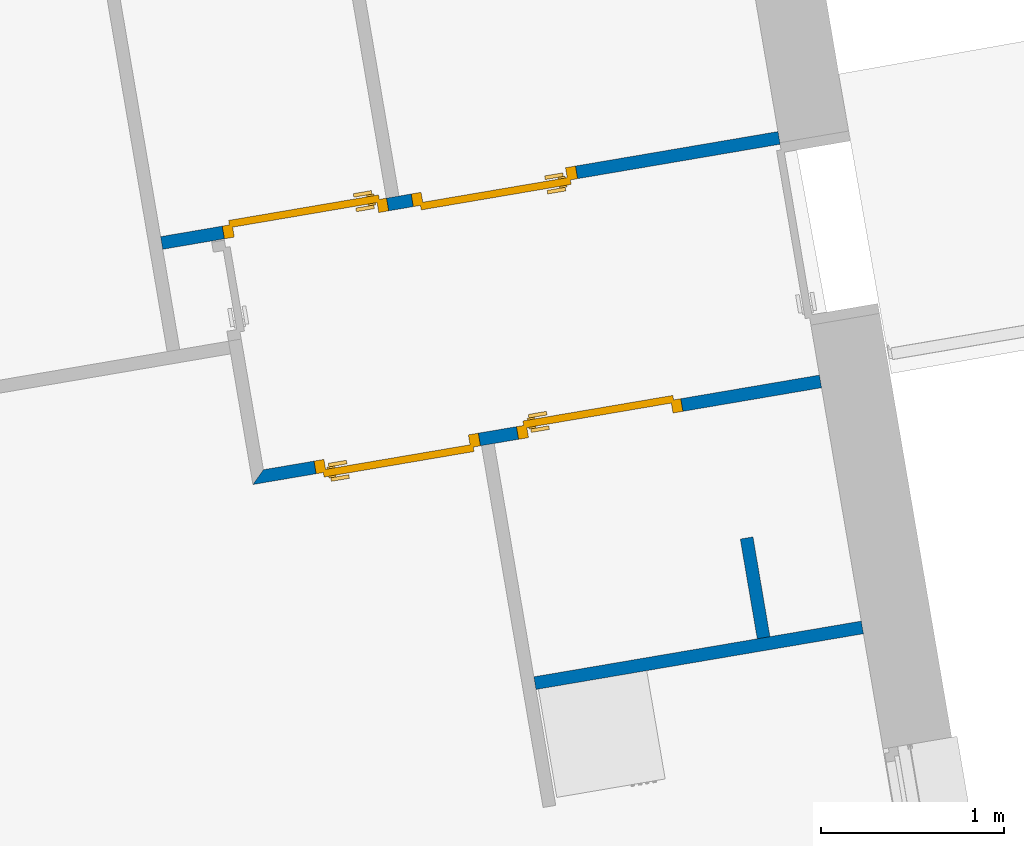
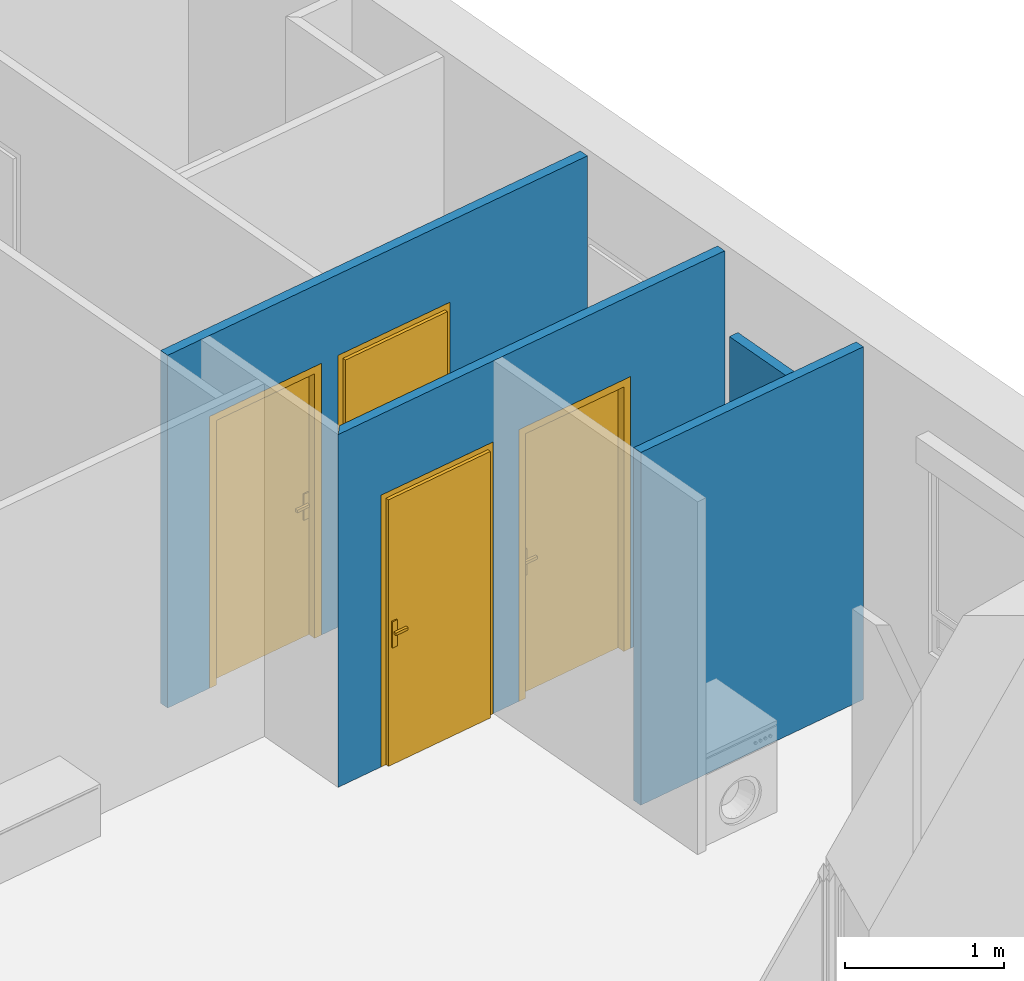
# One storey, part 75 of 121: 4 doors, 4 walls, 4 openings.
"""IFC2X3 building model written with IfcOpenShell, lengths in metres."""

from ifc_helpers import new_model, entity, si_unit, converted_unit, derived_unit, money_unit, direction, frame, origin_with_axes, origin_2d_with_axis, place, context, subcontext, project, spatial, polyline, rectangle, outline, extrude, faceted_brep, source, transform, mapped, material, layer, layer_set, layer_usage, type_object, element, fill, save


model = new_model("IFC2X3")

# Units and contexts
model_context = context("Model", 3, precision=1e-05, world=origin_with_axes(), true_north=direction((0.0, 1.0)))
body_context = subcontext(model_context, "Body", "Model", "MODEL_VIEW")
ifc_project = project(units=[si_unit("LENGTHUNIT", "METRE"), si_unit("AREAUNIT", "SQUARE_METRE"), si_unit("VOLUMEUNIT", "CUBIC_METRE"), converted_unit("PLANEANGLEUNIT", "DEGREE", entity("IfcPlaneAngleMeasure", 0.0174532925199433), si_unit("PLANEANGLEUNIT", "RADIAN"), dimensions=[0, 0, 0, 0, 0, 0, 0]), money_unit("CHF"), converted_unit("TIMEUNIT", "Year", entity("IfcTimeMeasure", 31557600.0), si_unit("TIMEUNIT", "SECOND"), dimensions=[0, 0, 1, 0, 0, 0, 0]), si_unit("MASSUNIT", "GRAM", prefix="KILO"), si_unit("THERMODYNAMICTEMPERATUREUNIT", "DEGREE_CELSIUS"), si_unit("LUMINOUSINTENSITYUNIT", "LUMEN"), si_unit("ENERGYUNIT", "JOULE", prefix="MEGA"), derived_unit("THERMALCONDUCTANCEUNIT", [(si_unit("POWERUNIT", "WATT"), 1), (si_unit("LENGTHUNIT", "METRE"), -1), (si_unit("THERMODYNAMICTEMPERATUREUNIT", "KELVIN"), -1)]), derived_unit("SPECIFICHEATCAPACITYUNIT", [(si_unit("ENERGYUNIT", "JOULE"), 1), (si_unit("MASSUNIT", "GRAM", prefix="KILO"), -1), (si_unit("THERMODYNAMICTEMPERATUREUNIT", "KELVIN"), -1)]), derived_unit("MASSDENSITYUNIT", [(si_unit("MASSUNIT", "GRAM", prefix="KILO"), 1), (si_unit("VOLUMEUNIT", "CUBIC_METRE"), -1)])], contexts=[model_context])

# Site, building, storey
site_placement = place(None, origin_with_axes())
site = spatial("IfcSite", under=ifc_project, at=site_placement, Name="Site", CompositionType="ELEMENT")
building_placement = place(site_placement, origin_with_axes())
building = spatial("IfcBuilding", under=site, at=building_placement, Name="Bâtiment", CompositionType="ELEMENT")
storey_placement = place(building_placement, frame((0.0, 0.0, 2.75), z_axis=(0.0, 0.0, 1.0), x_axis=(1.0, 0.0, 0.0)))
storey = spatial("IfcBuildingStorey", under=building, at=storey_placement, Name="Etage 1", CompositionType="ELEMENT", Elevation=2.75)

# Wall, openings, doors
ifc_material = material(Name="Hachure solide 268963992")
ifc_layer = layer(ifc_material, 0.07, ventilated="UNKNOWN")
ifc_layer_set = layer_set([ifc_layer], Name="Cloison 70 0826278243")
ifc_layer_usage_1 = layer_usage(ifc_layer_set, "AXIS2", "NEGATIVE", 0.0)
wall_type = type_object("IfcWallType", Name="Cloison 70 0826278243 70", PredefinedType="NOTDEFINED")
wall_1_placement = place(storey_placement, frame((9588.463847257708, -1028.046569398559, 57.7), z_axis=(0.0, 0.0, 1.0), x_axis=(-0.9858290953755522, -0.1677527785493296, 0.0)))
wall_1 = element("IfcWallStandardCase", 1, at=wall_1_placement, inside=storey, type_object=wall_type, material=ifc_layer_usage_1, Name="Mur-149", context=body_context, shape_type="SweptSolid", body=[
    extrude(outline(polyline([(0.3799999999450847, -0.0700000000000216), (3.798769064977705, -0.07000000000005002), (3.798769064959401, 0.0), (0.3799999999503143, 0.0), (0.3799999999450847, -0.0700000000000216)])), origin_with_axes(), (0.0, 0.0, 1.0), 2.7),
])
opening_1_placement = place(wall_1_placement, frame((3.002404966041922, 0.0, 0.0), z_axis=(0.0, 0.0, 1.0), x_axis=(1.0, 0.0, 0.0)))
opening_1 = element("IfcOpeningElement", 2, at=opening_1_placement, cuts=wall_1, Name="Por-299", context=body_context, shape_type="SweptSolid", body=[
    extrude(rectangle(XDim=0.9099999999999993, YDim=2.079999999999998, at=origin_2d_with_axis()), frame((0.0, 0.06999999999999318, 1.039999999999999), z_axis=(0.0, 1.0, 0.0), x_axis=(1.0, 0.0, 0.0)), (0.0, 0.0, -1.0), 0.14),
])
opening_2_placement = place(wall_1_placement, frame((1.956257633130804, 0.0, 0.0), z_axis=(0.0, 0.0, 1.0), x_axis=(1.0, 0.0, 0.0)))
opening_2 = element("IfcOpeningElement", 3, at=opening_2_placement, cuts=wall_1, Name="Por-299", context=body_context, shape_type="SweptSolid", body=[
    extrude(rectangle(XDim=0.9099999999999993, YDim=2.079999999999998, at=origin_2d_with_axis()), frame((0.0, -0.06999999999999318, 1.039999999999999), z_axis=(0.0, 1.0, 0.0), x_axis=(1.0, 0.0, 0.0)), (0.0, 0.0, 1.0), 0.14),
])
door_style = type_object("IfcDoorStyle", Name="Porte_1v", ConstructionType="NOTDEFINED", OperationType="NOTDEFINED", ParameterTakesPrecedence=False, Sizeable=False)
shared_shape_1 = source(origin_with_axes(), body_context, "Body", "Brep", [
    faceted_brep([(0.455, 0.0, 0.0), (0.415, 0.0, 0.0), (0.415, 0.0, 2.04), (-0.415, 0.0, 2.04), (-0.415, 0.0, 0.0), (-0.455, 0.0, 0.0), (-0.455, 0.0, 2.08), (0.455, 0.0, 2.08), (0.455, -0.07, 0.0), (0.4, -0.07, 0.0), (0.4, -0.015, 0.0), (0.415, -0.015, 0.0), (0.415, -0.015, 2.04), (-0.415, -0.015, 2.04), (-0.415, -0.015, 0.0), (-0.4, -0.015, 0.0), (-0.4, -0.07, 0.0), (-0.455, -0.07, 0.0), (-0.455, -0.07, 2.08), (0.455, -0.07, 2.08), (-0.4, -0.07, 2.025), (0.4, -0.07, 2.025), (0.4, -0.015, 2.025), (-0.4, -0.015, 2.025)], [[[0, 1, 2, 3, 4, 5, 6, 7]], [[0, 8, 9, 10, 11, 1]], [[1, 11, 12, 2]], [[2, 12, 13, 3]], [[3, 13, 14, 4]], [[5, 4, 14, 15, 16, 17]], [[18, 6, 5, 17]], [[19, 7, 6, 18]], [[8, 0, 7, 19]], [[9, 8, 19, 18, 17, 16, 20, 21]], [[10, 9, 21, 22]], [[11, 10, 22, 23, 15, 14, 13, 12]], [[23, 20, 16, 15]], [[22, 21, 20, 23]]]),
    faceted_brep([(-0.35, -0.015, 0.9), (-0.39, -0.015, 0.9), (-0.39, -0.015, 1.1), (-0.35, -0.015, 1.1), (-0.35, -0.025, 0.9), (-0.39, -0.025, 0.9), (-0.39, -0.025, 1.1), (-0.35, -0.025, 1.1)], [[[0, 1, 2, 3]], [[1, 0, 4, 5]], [[2, 1, 5, 6]], [[3, 2, 6, 7]], [[0, 3, 7, 4]], [[5, 4, 7, 6]]]),
    faceted_brep([(-0.28, -0.025, 1.0), (-0.38, -0.025, 1.0), (-0.38, -0.025, 1.02), (-0.28, -0.025, 1.02), (-0.28, -0.045, 1.0), (-0.38, -0.045, 1.0), (-0.38, -0.045, 1.02), (-0.28, -0.045, 1.02)], [[[0, 1, 2, 3]], [[1, 0, 4, 5]], [[2, 1, 5, 6]], [[3, 2, 6, 7]], [[0, 3, 7, 4]], [[5, 4, 7, 6]]]),
    faceted_brep([(-0.35, 0.035, 0.9), (-0.39, 0.035, 0.9), (-0.39, 0.035, 1.1), (-0.35, 0.035, 1.1), (-0.35, 0.025, 0.9), (-0.39, 0.025, 0.9), (-0.39, 0.025, 1.1), (-0.35, 0.025, 1.1)], [[[0, 1, 2, 3]], [[1, 0, 4, 5]], [[2, 1, 5, 6]], [[3, 2, 6, 7]], [[0, 3, 7, 4]], [[5, 4, 7, 6]]]),
    faceted_brep([(-0.28, 0.05500000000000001, 1.0), (-0.38, 0.05500000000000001, 1.0), (-0.38, 0.05500000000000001, 1.02), (-0.28, 0.05500000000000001, 1.02), (-0.28, 0.035, 1.0), (-0.38, 0.035, 1.0), (-0.38, 0.035, 1.02), (-0.28, 0.035, 1.02)], [[[0, 1, 2, 3]], [[1, 0, 4, 5]], [[2, 1, 5, 6]], [[3, 2, 6, 7]], [[0, 3, 7, 4]], [[5, 4, 7, 6]]]),
    faceted_brep([(-0.415, 0.025, 0.0), (0.415, 0.025, 0.0), (0.415, -0.015, 0.0), (-0.415, -0.015, 0.0), (-0.415, 0.025, 2.04), (0.415, 0.025, 2.04), (0.415, -0.015, 2.04), (-0.415, -0.015, 2.04)], [[[0, 1, 2, 3]], [[0, 4, 5, 1]], [[1, 5, 6, 2]], [[3, 2, 6, 7]], [[4, 0, 3, 7]], [[5, 4, 7, 6]]]),
])
door_1_placement = place(opening_2_placement, frame((-0.4149999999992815, 0.0, 0.0), z_axis=(0.0, 0.0, 1.0), x_axis=(1.0, 0.0, 0.0)))
door_1 = element("IfcDoor", 4, at=door_1_placement, inside=storey, type_object=door_style, Name="Por-299", OverallHeight=2.04, OverallWidth=0.83, context=body_context, shape_type="MappedRepresentation", body=[
    mapped(shared_shape_1, transform((0.4149999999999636, 0.0, 0.0))),
])
fill(opening_2, door_1)
shared_shape_2 = source(origin_with_axes(), body_context, "Body", "Brep", [
    faceted_brep([(-0.455, 0.0, 0.0), (-0.455, 0.0, 2.08), (0.455, 0.0, 2.08), (0.455, 0.0, 0.0), (0.415, 0.0, 0.0), (0.415, 0.0, 2.04), (-0.415, 0.0, 2.04), (-0.415, 0.0, 0.0), (-0.455, -0.07, 0.0), (-0.455, -0.07, 2.08), (0.455, -0.07, 2.08), (0.455, -0.07, 0.0), (0.4, -0.07, 0.0), (0.4, -0.015, 0.0), (0.415, -0.015, 0.0), (0.415, -0.015, 2.04), (-0.415, -0.015, 2.04), (-0.415, -0.015, 0.0), (-0.4, -0.015, 0.0), (-0.4, -0.07, 0.0), (-0.4, -0.07, 2.025), (0.4, -0.07, 2.025), (0.4, -0.015, 2.025), (-0.4, -0.015, 2.025)], [[[0, 1, 2, 3, 4, 5, 6, 7]], [[8, 9, 1, 0]], [[9, 10, 2, 1]], [[10, 11, 3, 2]], [[3, 11, 12, 13, 14, 4]], [[5, 4, 14, 15]], [[6, 5, 15, 16]], [[7, 6, 16, 17]], [[0, 7, 17, 18, 19, 8]], [[19, 20, 21, 12, 11, 10, 9, 8]], [[22, 13, 12, 21]], [[17, 16, 15, 14, 13, 22, 23, 18]], [[18, 23, 20, 19]], [[23, 22, 21, 20]]]),
    faceted_brep([(0.35, -0.015, 0.9), (0.35, -0.015, 1.1), (0.39, -0.015, 1.1), (0.39, -0.015, 0.9), (0.35, -0.025, 0.9), (0.35, -0.025, 1.1), (0.39, -0.025, 1.1), (0.39, -0.025, 0.9)], [[[0, 1, 2, 3]], [[0, 4, 5, 1]], [[1, 5, 6, 2]], [[2, 6, 7, 3]], [[3, 7, 4, 0]], [[7, 6, 5, 4]]]),
    faceted_brep([(0.28, -0.025, 1.0), (0.28, -0.025, 1.02), (0.38, -0.025, 1.02), (0.38, -0.025, 1.0), (0.28, -0.045, 1.0), (0.28, -0.045, 1.02), (0.38, -0.045, 1.02), (0.38, -0.045, 1.0)], [[[0, 1, 2, 3]], [[0, 4, 5, 1]], [[1, 5, 6, 2]], [[2, 6, 7, 3]], [[3, 7, 4, 0]], [[7, 6, 5, 4]]]),
    faceted_brep([(0.35, 0.035, 0.9), (0.35, 0.035, 1.1), (0.39, 0.035, 1.1), (0.39, 0.035, 0.9), (0.35, 0.025, 0.9), (0.35, 0.025, 1.1), (0.39, 0.025, 1.1), (0.39, 0.025, 0.9)], [[[0, 1, 2, 3]], [[0, 4, 5, 1]], [[1, 5, 6, 2]], [[2, 6, 7, 3]], [[3, 7, 4, 0]], [[7, 6, 5, 4]]]),
    faceted_brep([(0.28, 0.05500000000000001, 1.0), (0.28, 0.05500000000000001, 1.02), (0.38, 0.05500000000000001, 1.02), (0.38, 0.05500000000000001, 1.0), (0.28, 0.035, 1.0), (0.28, 0.035, 1.02), (0.38, 0.035, 1.02), (0.38, 0.035, 1.0)], [[[0, 1, 2, 3]], [[0, 4, 5, 1]], [[1, 5, 6, 2]], [[2, 6, 7, 3]], [[3, 7, 4, 0]], [[7, 6, 5, 4]]]),
    faceted_brep([(0.415, 0.025, 0.0), (0.415, -0.015, 0.0), (-0.415, -0.015, 0.0), (-0.415, 0.025, 0.0), (0.415, 0.025, 2.04), (0.415, -0.015, 2.04), (-0.415, -0.015, 2.04), (-0.415, 0.025, 2.04)], [[[0, 1, 2, 3]], [[4, 5, 1, 0]], [[1, 5, 6, 2]], [[3, 2, 6, 7]], [[0, 3, 7, 4]], [[7, 6, 5, 4]]]),
])
door_2_placement = place(opening_1_placement, frame((0.4150000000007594, 0.0, 0.0), z_axis=(0.0, 0.0, 1.0), x_axis=(-1.0, 0.0, 0.0)))
door_2 = element("IfcDoor", 5, at=door_2_placement, inside=storey, type_object=door_style, Name="Por-299", OverallHeight=2.04, OverallWidth=0.83, context=body_context, shape_type="MappedRepresentation", body=[
    mapped(shared_shape_2, transform((0.4149999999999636, 0.06999999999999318, 0.0))),
])
fill(opening_1, door_2)

# Wall
ifc_layer_usage_2 = layer_usage(ifc_layer_set, "AXIS2", "POSITIVE", 0.0)
wall_2_placement = place(storey_placement, frame((9586.756585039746, -1031.086719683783, 57.7), z_axis=(0.0, 0.0, 1.0), x_axis=(0.985829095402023, 0.1677527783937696, 0.0)))
element("IfcWallStandardCase", 6, at=wall_2_placement, inside=storey, type_object=wall_type, material=ifc_layer_usage_2, Name="Mur-149", context=body_context, shape_type="SweptSolid", body=[
    extrude(outline(polyline([(0.0, 0.0), (1.813062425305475, 0.0), (1.81306242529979, 0.06999999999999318), (0.0, 0.06999999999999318), (0.0, 0.0)])), origin_with_axes(), (0.0, 0.0, 1.0), 2.7),
])

# Wall, openings, doors
ifc_layer_usage_3 = layer_usage(ifc_layer_set, "AXIS2", "POSITIVE", 0.0)
wall_3_placement = place(storey_placement, frame((9585.211298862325, -1029.96792191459, 57.7), z_axis=(0.0, 0.0, 1.0), x_axis=(0.9858290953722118, 0.1677527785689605, 0.0)))
wall_3 = element("IfcWallStandardCase", 7, at=wall_3_placement, inside=storey, type_object=wall_type, material=ifc_layer_usage_3, Name="Mur-149", context=body_context, shape_type="SweptSolid", body=[
    extrude(outline(polyline([(2.249862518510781e-10, 0.0), (3.148769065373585, 0.0), (3.148769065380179, 0.06999999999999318), (0.0700000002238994, 0.06999999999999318), (2.249862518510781e-10, 0.0)])), origin_with_axes(), (0.0, 0.0, 1.0), 2.7),
])
opening_3_placement = place(wall_3_placement, frame((1.926126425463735, 0.0, 0.0), z_axis=(0.0, 0.0, 1.0), x_axis=(1.0, 0.0, 0.0)))
opening_3 = element("IfcOpeningElement", 8, at=opening_3_placement, cuts=wall_3, Name="Por-299", context=body_context, shape_type="SweptSolid", body=[
    extrude(rectangle(XDim=0.9099999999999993, YDim=2.079999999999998, at=origin_2d_with_axis()), frame((0.0, -0.06999999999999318, 1.039999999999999), z_axis=(0.0, 1.0, 0.0), x_axis=(1.0, 0.0, 0.0)), (0.0, 0.0, 1.0), 0.14),
])
opening_4_placement = place(wall_3_placement, frame((0.8050034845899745, 0.0, 0.0), z_axis=(0.0, 0.0, 1.0), x_axis=(1.0, 0.0, 0.0)))
opening_4 = element("IfcOpeningElement", 9, at=opening_4_placement, cuts=wall_3, Name="Por-299", context=body_context, shape_type="SweptSolid", body=[
    extrude(rectangle(XDim=0.9099999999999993, YDim=2.079999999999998, at=origin_2d_with_axis()), frame((0.0, 0.06999999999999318, 1.039999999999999), z_axis=(0.0, 1.0, 0.0), x_axis=(1.0, 0.0, 0.0)), (0.0, 0.0, -1.0), 0.14),
])
door_3_placement = place(opening_3_placement, frame((-0.4150000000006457, 0.0, 0.0), z_axis=(0.0, 0.0, 1.0), x_axis=(1.0, 0.0, 0.0)))
door_3 = element("IfcDoor", 10, at=door_3_placement, inside=storey, type_object=door_style, Name="Por-299", OverallHeight=2.04, OverallWidth=0.83, context=body_context, shape_type="MappedRepresentation", body=[
    mapped(shared_shape_1, transform((0.4150000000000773, 0.06999999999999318, 0.0))),
])
fill(opening_3, door_3)
door_4_placement = place(opening_4_placement, frame((0.4149999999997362, 0.0, 0.0), z_axis=(0.0, 0.0, 1.0), x_axis=(-1.0, 0.0, 0.0)))
door_4 = element("IfcDoor", 11, at=door_4_placement, inside=storey, type_object=door_style, Name="Por-299", OverallHeight=2.04, OverallWidth=0.83, context=body_context, shape_type="MappedRepresentation", body=[
    mapped(shared_shape_2, transform((0.4150000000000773, 0.0, 0.0))),
])
fill(opening_4, door_4)

# Wall
ifc_layer_usage_4 = layer_usage(ifc_layer_set, "AXIS2", "NEGATIVE", 0.0)
wall_4_placement = place(storey_placement, frame((9587.964489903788, -1030.810171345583, 57.7), z_axis=(0.0, 0.0, 1.0), x_axis=(-0.167752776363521, 0.9858290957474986, 0.0)))
element("IfcWallStandardCase", 12, at=wall_4_placement, inside=storey, type_object=wall_type, material=ifc_layer_usage_4, Name="Mur-149", context=body_context, shape_type="SweptSolid", body=[
    extrude(outline(polyline([(0.0, -0.07000000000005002), (0.5522241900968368, -0.07000000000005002), (0.5522241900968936, 0.0), (0.0, 0.0), (0.0, -0.07000000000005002)])), origin_with_axes(), (0.0, 0.0, 1.0), 2.7),
])

save(model, "model.ifc")
